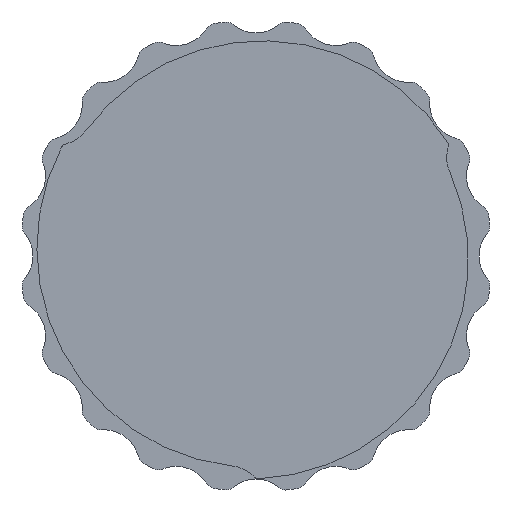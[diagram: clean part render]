
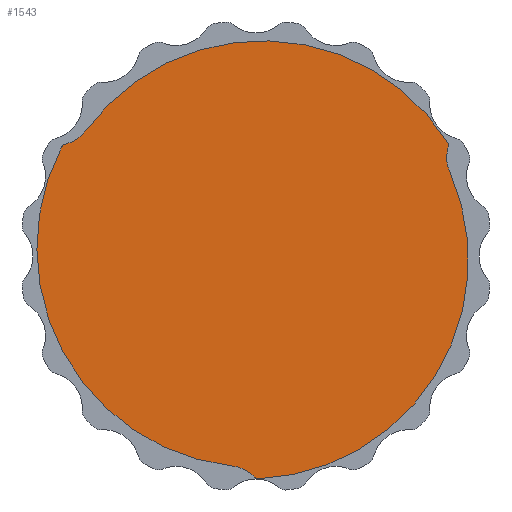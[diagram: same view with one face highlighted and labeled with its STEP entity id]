
A CAD part, front view. The second image highlights one B-rep face of the part: STEP entity #1543.
In plain terms, the highlighted planar face has unit normal (0, -1, 0).
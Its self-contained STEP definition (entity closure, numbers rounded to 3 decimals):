
#1364=CARTESIAN_POINT('',(-15.137,0.,11.157));
#1365=VERTEX_POINT('',#1364);
#1366=CARTESIAN_POINT('',(17.052,0.,10.127));
#1367=VERTEX_POINT('',#1366);
#1368=CARTESIAN_POINT('',(0.606,0.,-0.35));
#1369=DIRECTION('',(0.,1.,0.));
#1370=DIRECTION('',(0.,-0.,1.));
#1371=AXIS2_PLACEMENT_3D('',#1368,#1369,#1370);
#1372=CIRCLE('',#1371,19.5);
#1373=EDGE_CURVE('',#1365,#1367,#1372,.T.);
#1406=CARTESIAN_POINT('',(17.231,0.,7.53));
#1407=VERTEX_POINT('',#1406);
#1408=CARTESIAN_POINT('',(0.244,0.,-19.831));
#1409=VERTEX_POINT('',#1408);
#1410=CARTESIAN_POINT('',(-0.606,0.,-0.35));
#1411=DIRECTION('',(0.,1.,0.));
#1412=DIRECTION('',(0.,-0.,1.));
#1413=AXIS2_PLACEMENT_3D('',#1410,#1411,#1412);
#1414=CIRCLE('',#1413,19.5);
#1415=EDGE_CURVE('',#1407,#1409,#1414,.T.);
#1448=CARTESIAN_POINT('',(-2.094,0.,-18.687));
#1449=VERTEX_POINT('',#1448);
#1450=CARTESIAN_POINT('',(-17.297,0.,9.704));
#1451=VERTEX_POINT('',#1450);
#1452=CARTESIAN_POINT('',(0.,0.,0.7));
#1453=DIRECTION('',(0.,1.,0.));
#1454=DIRECTION('',(0.,-0.,1.));
#1455=AXIS2_PLACEMENT_3D('',#1452,#1453,#1454);
#1456=CIRCLE('',#1455,19.5);
#1457=EDGE_CURVE('',#1449,#1451,#1456,.T.);
#1485=CARTESIAN_POINT('',(0.606,0.,-0.35));
#1486=DIRECTION('',(0.,1.,0.));
#1487=DIRECTION('',(0.,0.,1.));
#1488=AXIS2_PLACEMENT_3D('',#1485,#1486,#1487);
#1489=PLANE('',#1488);
#1490=CARTESIAN_POINT('',(-16.962,0.,9.961));
#1491=VERTEX_POINT('',#1490);
#1492=CARTESIAN_POINT('',(-17.639,0.,12.986));
#1493=DIRECTION('',(0.,1.,0.));
#1494=DIRECTION('',(0.,-0.,1.));
#1495=AXIS2_PLACEMENT_3D('',#1492,#1493,#1494);
#1496=CIRCLE('',#1495,3.1);
#1497=EDGE_CURVE('',#1365,#1491,#1496,.T.);
#1498=ORIENTED_EDGE('',*,*,#1497,.T.);
#1499=CARTESIAN_POINT('',(-16.853,0.,9.473));
#1500=DIRECTION('',(-0.,-1.,-0.));
#1501=DIRECTION('',(0.,-0.,1.));
#1502=AXIS2_PLACEMENT_3D('',#1499,#1500,#1501);
#1503=CIRCLE('',#1502,0.5);
#1504=EDGE_CURVE('',#1491,#1451,#1503,.T.);
#1505=ORIENTED_EDGE('',*,*,#1504,.T.);
#1506=ORIENTED_EDGE('',*,*,#1457,.F.);
#1507=CARTESIAN_POINT('',(-0.146,0.,-19.67));
#1508=VERTEX_POINT('',#1507);
#1509=CARTESIAN_POINT('',(-2.427,0.,-21.769));
#1510=DIRECTION('',(0.,1.,0.));
#1511=DIRECTION('',(0.,-0.,1.));
#1512=AXIS2_PLACEMENT_3D('',#1509,#1510,#1511);
#1513=CIRCLE('',#1512,3.1);
#1514=EDGE_CURVE('',#1449,#1508,#1513,.T.);
#1515=ORIENTED_EDGE('',*,*,#1514,.T.);
#1516=CARTESIAN_POINT('',(0.222,0.,-19.332));
#1517=DIRECTION('',(-0.,-1.,-0.));
#1518=DIRECTION('',(0.,-0.,1.));
#1519=AXIS2_PLACEMENT_3D('',#1516,#1517,#1518);
#1520=CIRCLE('',#1519,0.5);
#1521=EDGE_CURVE('',#1508,#1409,#1520,.T.);
#1522=ORIENTED_EDGE('',*,*,#1521,.T.);
#1523=ORIENTED_EDGE('',*,*,#1415,.F.);
#1524=CARTESIAN_POINT('',(17.108,0.,9.709));
#1525=VERTEX_POINT('',#1524);
#1526=CARTESIAN_POINT('',(20.066,0.,8.783));
#1527=DIRECTION('',(0.,1.,0.));
#1528=DIRECTION('',(0.,-0.,1.));
#1529=AXIS2_PLACEMENT_3D('',#1526,#1527,#1528);
#1530=CIRCLE('',#1529,3.1);
#1531=EDGE_CURVE('',#1407,#1525,#1530,.T.);
#1532=ORIENTED_EDGE('',*,*,#1531,.T.);
#1533=CARTESIAN_POINT('',(16.631,0.,9.859));
#1534=DIRECTION('',(-0.,-1.,-0.));
#1535=DIRECTION('',(0.,-0.,1.));
#1536=AXIS2_PLACEMENT_3D('',#1533,#1534,#1535);
#1537=CIRCLE('',#1536,0.5);
#1538=EDGE_CURVE('',#1525,#1367,#1537,.T.);
#1539=ORIENTED_EDGE('',*,*,#1538,.T.);
#1540=ORIENTED_EDGE('',*,*,#1373,.F.);
#1541=EDGE_LOOP('',(#1498,#1505,#1506,#1515,#1522,#1523,#1532,#1539,#1540));
#1542=FACE_BOUND('',#1541,.T.);
#1543=ADVANCED_FACE('',(#1542),#1489,.F.);
